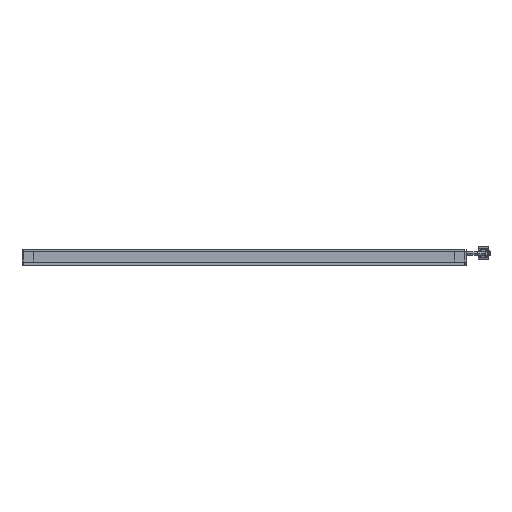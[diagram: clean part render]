
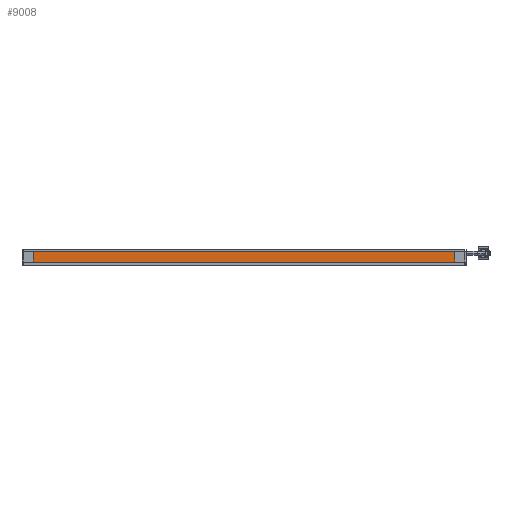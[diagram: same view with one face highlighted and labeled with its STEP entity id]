
A CAD part, front view. The second image highlights one B-rep face of the part: STEP entity #9008.
In plain terms, the highlighted planar face has unit normal (0, -1, 0).
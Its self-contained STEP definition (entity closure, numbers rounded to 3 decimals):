
#133 = VECTOR ( 'NONE', #5101, 1000. ) ;
#737 = AXIS2_PLACEMENT_3D ( 'NONE', #8049, #5092, #2128 ) ;
#814 = LINE ( 'NONE', #5989, #1618 ) ;
#843 = VERTEX_POINT ( 'NONE', #5926 ) ;
#1187 = CARTESIAN_POINT ( 'NONE',  ( -170.7, -320., 0. ) ) ;
#1618 = VECTOR ( 'NONE', #5148, 1000. ) ;
#1866 = PLANE ( 'NONE',  #737 ) ;
#2128 = DIRECTION ( 'NONE',  ( 0., 0., -1. ) ) ;
#2317 = FACE_OUTER_BOUND ( 'NONE', #6332, .T. ) ;
#2660 = CARTESIAN_POINT ( 'NONE',  ( 170.7, -320., 0. ) ) ;
#2724 = CARTESIAN_POINT ( 'NONE',  ( -170.7, -320., -8.5 ) ) ;
#2829 = EDGE_CURVE ( 'NONE', #6492, #4280, #8358, .T. ) ;
#2841 = ORIENTED_EDGE ( 'NONE', *, *, #9364, .F. ) ;
#2845 = EDGE_CURVE ( 'NONE', #4280, #843, #8150, .T. ) ;
#2959 = LINE ( 'NONE', #1187, #5406 ) ;
#4280 = VERTEX_POINT ( 'NONE', #5260 ) ;
#4982 = CARTESIAN_POINT ( 'NONE',  ( -170.7, -320., 0. ) ) ;
#5068 = ORIENTED_EDGE ( 'NONE', *, *, #2845, .T. ) ;
#5092 = DIRECTION ( 'NONE',  ( 0., 1., 0. ) ) ;
#5101 = DIRECTION ( 'NONE',  ( 0., 0., 1. ) ) ;
#5148 = DIRECTION ( 'NONE',  ( 0., 0., 1. ) ) ;
#5260 = CARTESIAN_POINT ( 'NONE',  ( 170.7, -320., -8.5 ) ) ;
#5406 = VECTOR ( 'NONE', #6361, 1000. ) ;
#5926 = CARTESIAN_POINT ( 'NONE',  ( 170.7, -320., 0. ) ) ;
#5989 = CARTESIAN_POINT ( 'NONE',  ( -170.7, -320., 0. ) ) ;
#6258 = VECTOR ( 'NONE', #6445, 1000. ) ;
#6332 = EDGE_LOOP ( 'NONE', ( #5068, #9587, #2841, #7144 ) ) ;
#6361 = DIRECTION ( 'NONE',  ( 1., 0., 0. ) ) ;
#6374 = EDGE_CURVE ( 'NONE', #9313, #843, #2959, .T. ) ;
#6445 = DIRECTION ( 'NONE',  ( 1., 0., 0. ) ) ;
#6492 = VERTEX_POINT ( 'NONE', #6615 ) ;
#6615 = CARTESIAN_POINT ( 'NONE',  ( -170.7, -320., -8.5 ) ) ;
#7144 = ORIENTED_EDGE ( 'NONE', *, *, #2829, .T. ) ;
#8049 = CARTESIAN_POINT ( 'NONE',  ( -170.7, -320., 0. ) ) ;
#8150 = LINE ( 'NONE', #2660, #133 ) ;
#8358 = LINE ( 'NONE', #2724, #6258 ) ;
#9008 = ADVANCED_FACE ( 'NONE', ( #2317 ), #1866, .F. ) ;
#9313 = VERTEX_POINT ( 'NONE', #4982 ) ;
#9364 = EDGE_CURVE ( 'NONE', #6492, #9313, #814, .T. ) ;
#9587 = ORIENTED_EDGE ( 'NONE', *, *, #6374, .F. ) ;
